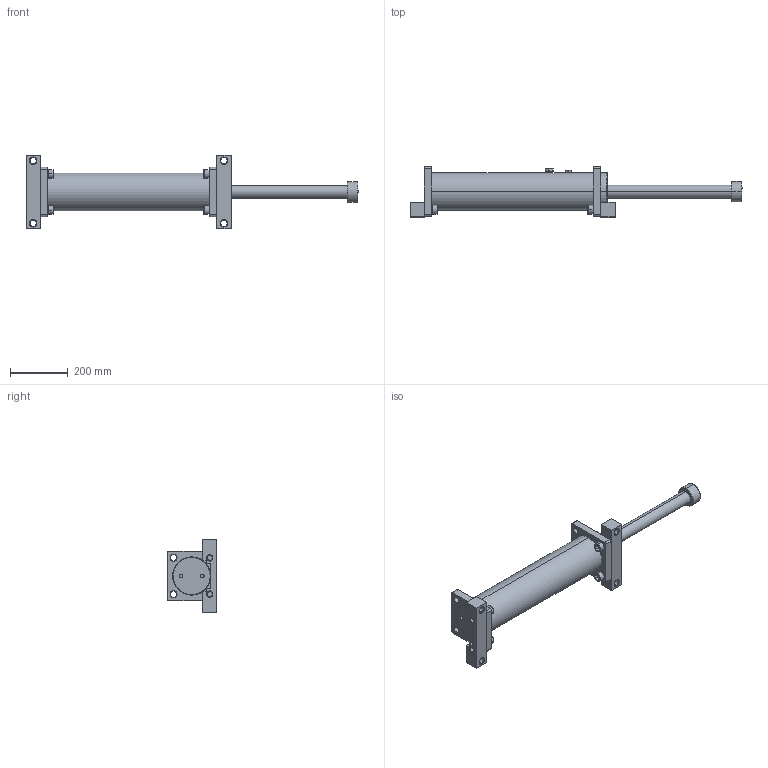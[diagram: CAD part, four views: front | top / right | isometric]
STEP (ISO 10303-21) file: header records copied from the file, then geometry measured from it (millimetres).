
FILE_DESCRIPTION (( 'STEP AP214' ), '1' );
FILE_NAME ('LDD3.0X16.STEP', '2019-01-16T07:13:53', ( 'user' ), ( 'Microsoft' ), 'SwSTEP 2.0', 'SolidWorks 2016', '' );
FILE_SCHEMA (( 'AUTOMOTIVE_DESIGN' ));
Length unit declared in the file: inch
Products named in the file (1): LDD3.0X16
Bounding box: 1147 x 172.5 x 255 mm (x, y, z)
Surface area: 629904.6 mm2 (no closed solid volume)
Topology: 0 solids, 21 shells, 283 faces, 749 edges, 497 vertices
Faces by surface type: plane 109, cylinder 92, cone 52, bspline 30
Entity records: 15124 total; most frequent: CARTESIAN_POINT 8154, DIRECTION 1455, ORIENTED_EDGE 1358, EDGE_CURVE 749, AXIS2_PLACEMENT_3D 551, VERTEX_POINT 497, VECTOR 353, LINE 353
